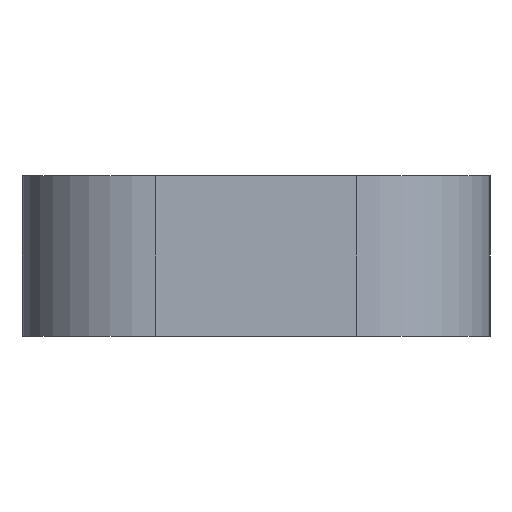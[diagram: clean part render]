
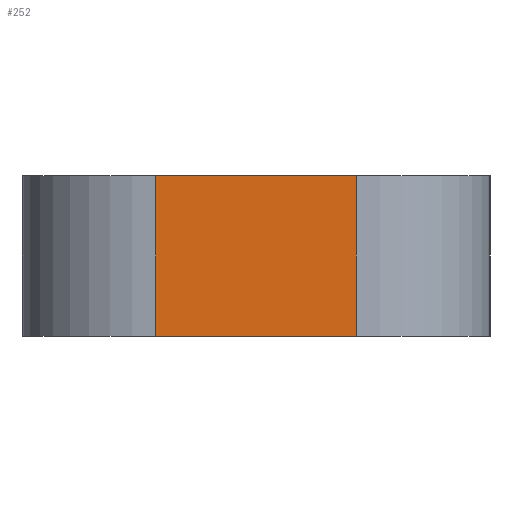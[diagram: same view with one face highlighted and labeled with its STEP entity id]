
A CAD part, left-side view. The second image highlights one B-rep face of the part: STEP entity #252.
In plain terms, the highlighted planar face has unit normal (-1, 0, 0).
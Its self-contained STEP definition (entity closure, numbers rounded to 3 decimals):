
#22 = VERTEX_POINT('',#23);
#23 = CARTESIAN_POINT('',(-53.,68.75,-17.75));
#32 = EDGE_CURVE('',#33,#22,#35,.T.);
#33 = VERTEX_POINT('',#34);
#34 = CARTESIAN_POINT('',(-53.,68.75,-20.15));
#35 = LINE('',#36,#37);
#36 = CARTESIAN_POINT('',(-53.,68.75,-20.15));
#37 = VECTOR('',#38,1.);
#38 = DIRECTION('',(0.,0.,1.));
#107 = VERTEX_POINT('',#108);
#108 = CARTESIAN_POINT('',(-53.,71.75,-17.75));
#115 = EDGE_CURVE('',#22,#107,#116,.T.);
#116 = LINE('',#117,#118);
#117 = CARTESIAN_POINT('',(-53.,68.75,-17.75));
#118 = VECTOR('',#119,1.);
#119 = DIRECTION('',(0.,1.,0.));
#176 = EDGE_CURVE('',#33,#177,#179,.T.);
#177 = VERTEX_POINT('',#178);
#178 = CARTESIAN_POINT('',(-53.,71.75,-20.15));
#179 = LINE('',#180,#181);
#180 = CARTESIAN_POINT('',(-53.,68.75,-20.15));
#181 = VECTOR('',#182,1.);
#182 = DIRECTION('',(0.,1.,0.));
#252 = ADVANCED_FACE('',(#253),#264,.F.);
#253 = FACE_BOUND('',#254,.F.);
#254 = EDGE_LOOP('',(#255,#256,#257,#263));
#255 = ORIENTED_EDGE('',*,*,#32,.F.);
#256 = ORIENTED_EDGE('',*,*,#176,.T.);
#257 = ORIENTED_EDGE('',*,*,#258,.T.);
#258 = EDGE_CURVE('',#177,#107,#259,.T.);
#259 = LINE('',#260,#261);
#260 = CARTESIAN_POINT('',(-53.,71.75,-20.15));
#261 = VECTOR('',#262,1.);
#262 = DIRECTION('',(0.,0.,1.));
#263 = ORIENTED_EDGE('',*,*,#115,.F.);
#264 = PLANE('',#265);
#265 = AXIS2_PLACEMENT_3D('',#266,#267,#268);
#266 = CARTESIAN_POINT('',(-53.,68.75,-20.15));
#267 = DIRECTION('',(1.,0.,0.));
#268 = DIRECTION('',(0.,0.,1.));
